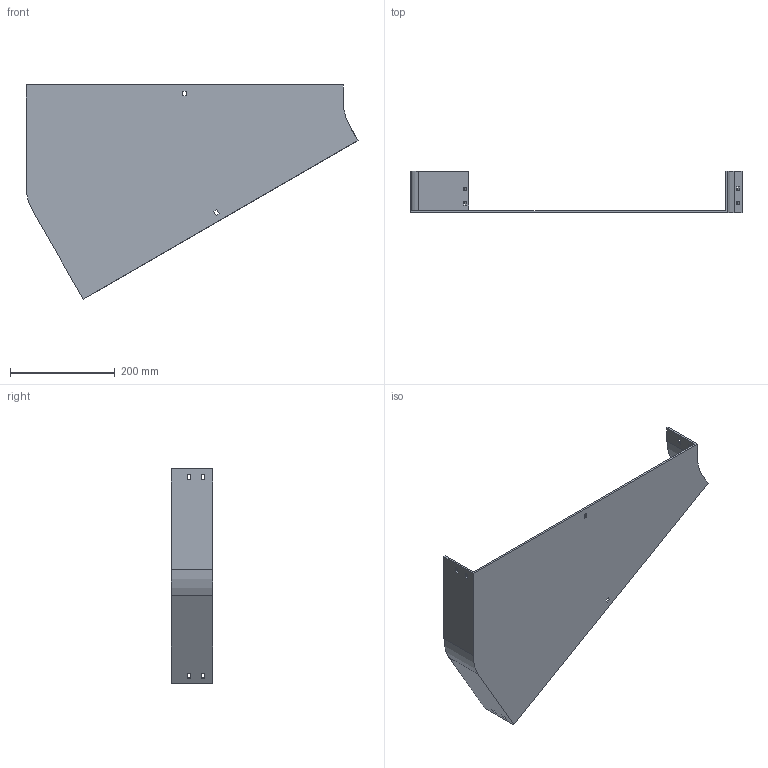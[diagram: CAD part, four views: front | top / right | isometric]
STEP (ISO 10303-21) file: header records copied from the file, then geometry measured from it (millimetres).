
FILE_DESCRIPTION (( 'STEP AP214' ), '1' );
FILE_NAME ('12F1C600.step', '2025-02-21T12:54:51', ( '' ), ( '' ), 'SwSTEP 2.0', 'SolidWorks 2023', '' );
FILE_SCHEMA (( 'AUTOMOTIVE_DESIGN' ));
Length unit declared in the file: millimetre
Products named in the file (1): 12F1C600
Bounding box: 632.4 x 79 x 407.98 mm (x, y, z)
Volume: 724807.3 mm3; surface area: 422549 mm2
Topology: 1 solids, 1 shells, 58 faces, 168 edges, 112 vertices
Faces by surface type: plane 54, cylinder 4
Entity records: 1943 total; most frequent: CARTESIAN_POINT 339, ORIENTED_EDGE 336, DIRECTION 294, EDGE_CURVE 168, LINE 160, VECTOR 160, VERTEX_POINT 112, EDGE_LOOP 78
